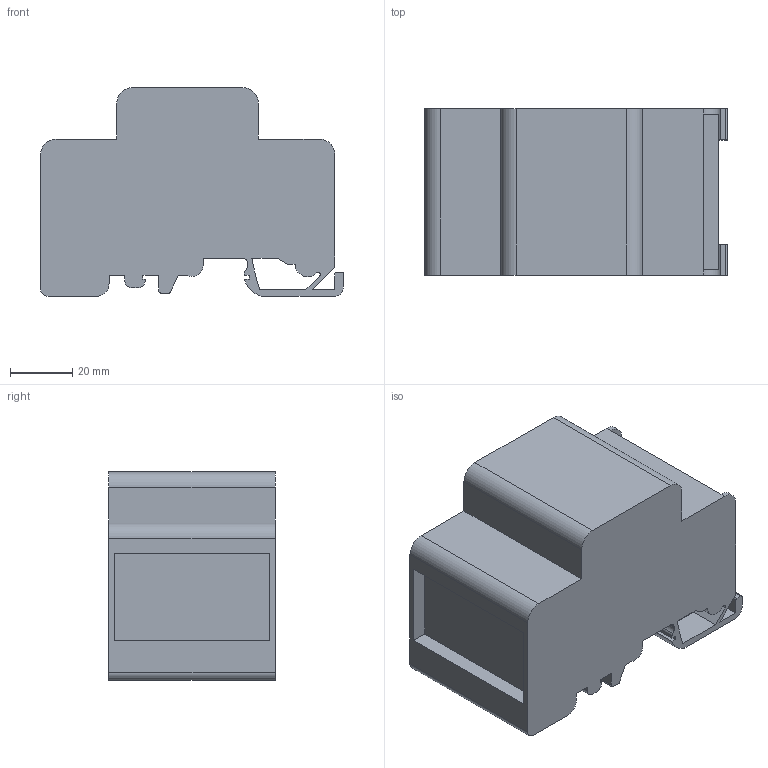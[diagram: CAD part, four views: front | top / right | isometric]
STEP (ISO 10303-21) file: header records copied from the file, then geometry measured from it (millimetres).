
FILE_DESCRIPTION(/* description */ ('Unknown'),/* implementation_level */ '2;1');
FILE_NAME(/* name */ 'DTB 2x120_8x35',/* time_stamp */ '2024-05-27T06:32:51+02:00',/* author */ ('Unknown'),/* organization */ ('Unknown'),/* preprocessor_version */ 'ST-DEVELOPER v19.4',/* originating_system */ 'Solid Edge',/* authorisation */ 'Unknown');
FILE_SCHEMA (('AUTOMOTIVE_DESIGN {1 0 10303 214 3 1 1}'));
Length unit declared in the file: millimetre
Products named in the file (1): DTB 2x120_8x35
Bounding box: 97.3 x 53.5 x 67 mm (x, y, z)
Volume: 237001.5 mm3; surface area: 31801.1 mm2
Topology: 1 solids, 1 shells, 111 faces, 328 edges, 218 vertices
Faces by surface type: plane 73, cylinder 38
Entity records: 3742 total; most frequent: CARTESIAN_POINT 658, ORIENTED_EDGE 656, DIRECTION 630, EDGE_CURVE 328, LINE 250, VECTOR 250, VERTEX_POINT 218, AXIS2_PLACEMENT_3D 190
